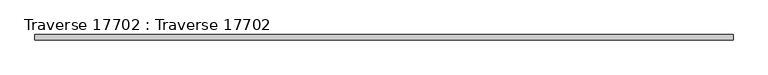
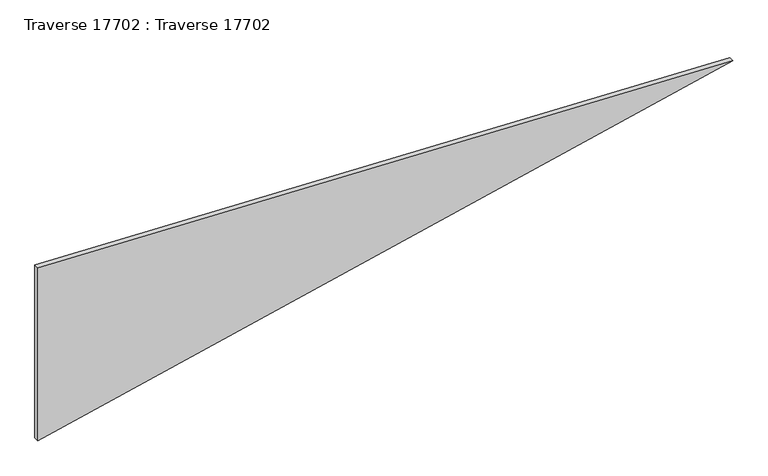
"""IFC4 building model written with IfcOpenShell, lengths in millimetres: beam geometry, Traverse 17702 : Traverse 17702."""

from ifc_helpers import new_model, si_unit, frame, origin, place, context, project, spatial, polyline, outline, extrude, source, transform, mapped, element, save


def traverse_17702_traverse_17702_edc11967(model_context):
    return source(origin(), model_context, "Body", "SweptSolid", [
        extrude(outline(polyline([(7242.0359427, 195.3384248), (7575.5248218, 1655.1500908), (7626.618758, 195.3233409), (7242.0359427, 195.3384248)])), frame((0.0, -4305.55, 0.0), z_axis=(0.0, 1.0, 0.0), x_axis=(0.0, 0.0, 1.0)), (0.0, 0.0, 1.0), 11.1),
    ])


if __name__ == "__main__":
    model = new_model("IFC4")
    model_context = context("Model", 3, world=origin())
    ifc_project = project(units=[si_unit("LENGTHUNIT", "METRE", prefix="MILLI")], contexts=[model_context])
    site = spatial("IfcSite", under=ifc_project)
    building = spatial("IfcBuilding", under=site)
    placement = place(None, origin())
    traverse_17702_traverse_17702_shape = traverse_17702_traverse_17702_edc11967(model_context)
    element("IfcBeam", 1, ObjectType="Traverse 17702 : Traverse 17702", at=placement, inside=building, context=model_context, shape_type="MappedRepresentation", body=[
        mapped(traverse_17702_traverse_17702_shape, transform((0.0, 0.0, 0.0), x_axis=(1.0, 0.0, 0.0), y_axis=(0.0, 1.0, 0.0), z_axis=(0.0, 0.0, 1.0))),
    ])
    save(model, "model.ifc")
